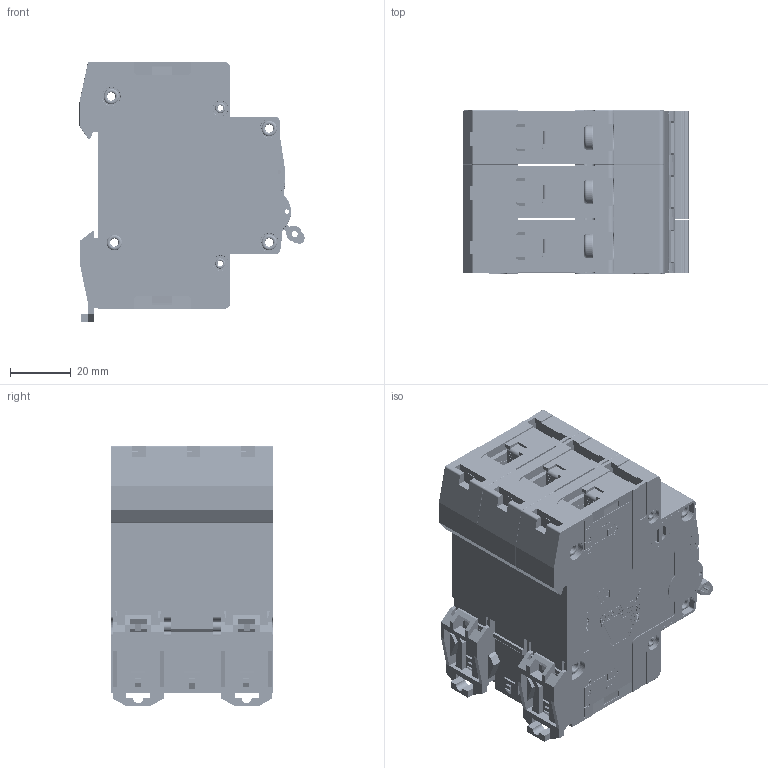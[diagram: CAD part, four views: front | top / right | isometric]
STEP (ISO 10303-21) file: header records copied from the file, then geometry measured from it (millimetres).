
FILE_DESCRIPTION (( 'STEP AP214' ), '1' );
FILE_NAME ('TDZ-3B-1.STEP', '2026-04-30T12:59:22', ( '' ), ( '' ), 'SwSTEP 2.0', 'SolidWorks 2025', '' );
FILE_SCHEMA (( 'AUTOMOTIVE_DESIGN' ));
Length unit declared in the file: millimetre
Products named in the file (1): TDZ-3B-1
Bounding box: 73.85 x 53.4 x 85.3 mm (x, y, z)
Volume: 89398.3 mm3; surface area: 141644.4 mm2
Topology: 44 solids, 44 shells, 11829 faces, 33429 edges, 22212 vertices
Faces by surface type: plane 7428, cylinder 2739, bspline 1233, torus 291, cone 138
Entity records: 598279 total; most frequent: CARTESIAN_POINT 174008, ORIENTED_EDGE 66786, DIRECTION 55880, EDGE_CURVE 33393, VECTOR 23406, LINE 23406, VERTEX_POINT 22212, AXIS2_PLACEMENT_3D 16237
